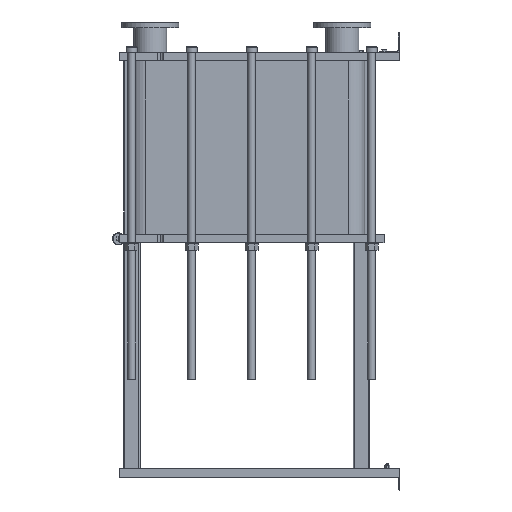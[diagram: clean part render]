
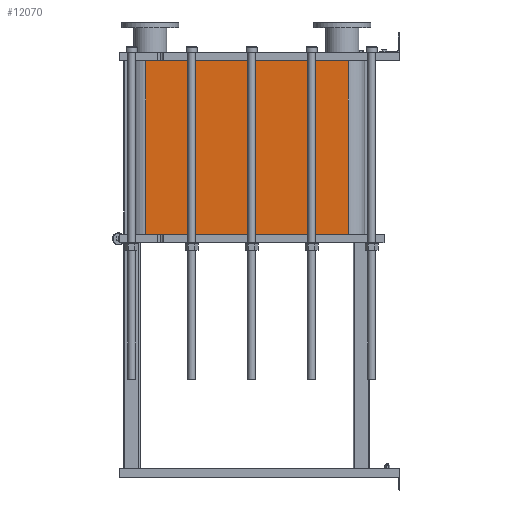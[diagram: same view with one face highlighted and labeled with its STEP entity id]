
A CAD part, left-side view. The second image highlights one B-rep face of the part: STEP entity #12070.
In plain terms, the highlighted planar face has unit normal (-1, 0, 0).
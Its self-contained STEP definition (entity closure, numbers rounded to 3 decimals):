
#1064=LINE('',#21140,#2164);
#1065=LINE('',#21144,#2165);
#1066=LINE('',#21146,#2166);
#1067=LINE('',#21147,#2167);
#2164=VECTOR('',#15790,10.);
#2165=VECTOR('',#15795,10.);
#2166=VECTOR('',#15796,10.);
#2167=VECTOR('',#15797,10.);
#3304=FACE_OUTER_BOUND('',#4091,.T.);
#4091=EDGE_LOOP('',(#9793,#9794,#9795,#9796));
#5677=VERTEX_POINT('',#21137);
#5678=VERTEX_POINT('',#21139);
#5679=VERTEX_POINT('',#21143);
#5680=VERTEX_POINT('',#21145);
#7118=EDGE_CURVE('',#5678,#5677,#1064,.T.);
#7120=EDGE_CURVE('',#5677,#5679,#1065,.T.);
#7121=EDGE_CURVE('',#5680,#5679,#1066,.T.);
#7122=EDGE_CURVE('',#5680,#5678,#1067,.T.);
#9793=ORIENTED_EDGE('',*,*,#7120,.T.);
#9794=ORIENTED_EDGE('',*,*,#7121,.F.);
#9795=ORIENTED_EDGE('',*,*,#7122,.T.);
#9796=ORIENTED_EDGE('',*,*,#7118,.T.);
#11441=PLANE('',#13191);
#12070=ADVANCED_FACE('',(#3304),#11441,.T.);
#13191=AXIS2_PLACEMENT_3D('',#21142,#15793,#15794);
#15790=DIRECTION('',(0.,0.,-1.));
#15793=DIRECTION('center_axis',(-1.,0.,0.));
#15794=DIRECTION('ref_axis',(0.,1.,0.));
#15795=DIRECTION('',(0.,-1.,0.));
#15796=DIRECTION('',(0.,0.,-1.));
#15797=DIRECTION('',(0.,1.,0.));
#21137=CARTESIAN_POINT('',(-248.152,1243.818,-852.15));
#21139=CARTESIAN_POINT('',(-248.152,1243.818,0.));
#21140=CARTESIAN_POINT('',(-248.152,1243.818,0.));
#21142=CARTESIAN_POINT('Origin',(-248.152,251.818,0.));
#21143=CARTESIAN_POINT('',(-248.152,251.818,-852.15));
#21144=CARTESIAN_POINT('',(-248.152,499.818,-852.15));
#21145=CARTESIAN_POINT('',(-248.152,251.818,0.));
#21146=CARTESIAN_POINT('',(-248.152,251.818,0.));
#21147=CARTESIAN_POINT('',(-248.152,251.818,0.));
